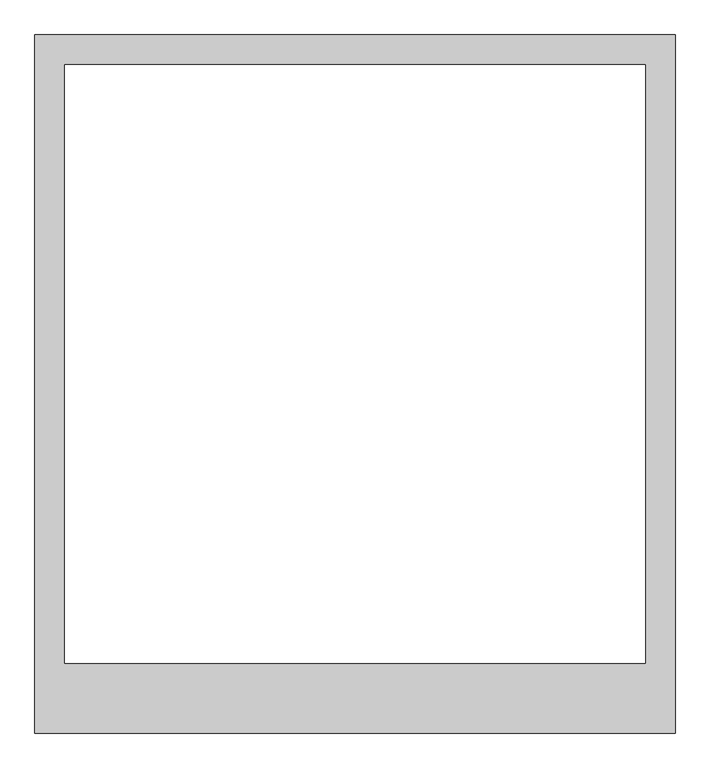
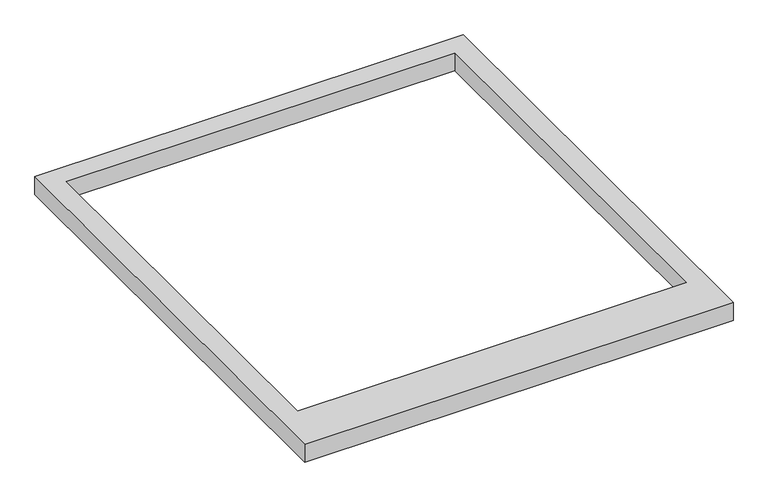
"""IFC4 building model written with IfcOpenShell, lengths in millimetres: beam geometry, Armazón estructural 1 : Armazón estructural 1."""

import ifcopenshell
import ifcopenshell.guid

model = None  # the IFC model being written
_history = None  # IfcOwnerHistory: only IFC2X3 demands one
_inside = {}  # id of a spatial element -> (the spatial element, [elements in it])
_under = {}  # id of a project, library or spatial element -> (it, [spatial elements below it])
_declared = {}  # id of a project -> (the project, [libraries it declares])
_typed = {}  # id of a type object -> (the type object, [elements of that type])
_made_of = {}  # id of a material, layer set ... -> (it, [elements and type objects made of it])


def new_model(schema):
    """Start an empty IFC model of exactly this schema.

    Asked for "IFC4X3", IfcOpenShell would pick the latest addendum, in which some entities
    have other attributes; the version numbers below select the first issue.
    IFC2X3 requires an IfcOwnerHistory on every rooted entity: one is made here for all.
    """
    global model, _history
    if schema == "IFC4X3":
        model = ifcopenshell.file(schema_version=(4, 3, 0, 0))
    else:
        model = ifcopenshell.file(schema=schema)
    _inside.clear()
    _under.clear()
    _declared.clear()
    _typed.clear()
    _made_of.clear()
    _history = None
    if model.schema == "IFC2X3":
        org = make("IfcOrganization", Name="unknown")
        user = make(
            "IfcPersonAndOrganization",
            ThePerson=make("IfcPerson", FamilyName="unknown"),
            TheOrganization=org,
        )
        app = make(
            "IfcApplication",
            ApplicationDeveloper=org,
            Version="unknown",
            ApplicationFullName="unknown",
            ApplicationIdentifier="unknown",
        )
        _history = make(
            "IfcOwnerHistory",
            OwningUser=user,
            OwningApplication=app,
            ChangeAction="ADDED",
            CreationDate=0,
        )
    return model


def make(cls, **values):
    """One entity of the class cls with the attributes given. An attribute that is None is left unset."""
    return model.create_entity(
        cls, **{name: value for name, value in values.items() if value is not None}
    )


def rooted(cls, **values):
    """An entity with a GlobalId (a new one), such as an element, a storey or a relation."""
    return make(cls, GlobalId=ifcopenshell.guid.new(), OwnerHistory=_history, **values)


def si_unit(unit_type, name, prefix=None):
    """IfcSIUnit, for example si_unit("LENGTHUNIT", "METRE", prefix="MILLI")."""
    return make("IfcSIUnit", UnitType=unit_type, Prefix=prefix, Name=name)


def assignment(units):
    """IfcUnitAssignment: the units of a project."""
    return None if units is None else make("IfcUnitAssignment", Units=units)


def point(xyz):
    """IfcCartesianPoint."""
    return None if xyz is None else make("IfcCartesianPoint", Coordinates=xyz)


def direction(xyz):
    """IfcDirection."""
    return None if xyz is None else make("IfcDirection", DirectionRatios=xyz)


def frame(location, z_axis=None, x_axis=None):
    """IfcAxis2Placement3D, a coordinate frame: its origin and axes. An axis left out is left unset."""
    return make(
        "IfcAxis2Placement3D",
        Location=point(location),
        Axis=direction(z_axis),
        RefDirection=direction(x_axis),
    )


def origin():
    """The frame at (0, 0, 0) with its axes left unset."""
    return frame((0.0, 0.0, 0.0))


def place(relative_to, where):
    """IfcLocalPlacement: puts the frame where relative to a parent placement (None: the world)."""
    return make(
        "IfcLocalPlacement", PlacementRelTo=relative_to, RelativePlacement=where
    )


def context(
    kind, dimensions, precision=None, world=None, true_north=None, identifier=None
):
    """IfcGeometricRepresentationContext, for example the 3D "Model" context."""
    return make(
        "IfcGeometricRepresentationContext",
        ContextIdentifier=identifier,
        ContextType=kind,
        CoordinateSpaceDimension=dimensions,
        Precision=precision,
        WorldCoordinateSystem=world,
        TrueNorth=true_north,
    )


def project(units=None, contexts=None):
    """IfcProject with its units and contexts."""
    return rooted(
        "IfcProject",
        Name="project",
        RepresentationContexts=contexts,
        UnitsInContext=assignment(units),
    )


def spatial(cls, under=None, at=None, **own):
    """A site, building, storey or space (cls), placed at a placement, below another one or the project."""
    s = rooted(cls, ObjectPlacement=at, **own)
    if under is not None:
        _under.setdefault(under.id(), (under, []))[1].append(s)
    return s


def polyline(points):
    """IfcPolyline through the points."""
    return make("IfcPolyline", Points=[point(p) for p in points])


def outline(outer, holes=None, kind="AREA"):
    """IfcArbitraryClosedProfileDef: a profile drawn as a closed curve; with holes, ...WithVoids."""
    if holes is None:
        return make("IfcArbitraryClosedProfileDef", ProfileType=kind, OuterCurve=outer)
    return make(
        "IfcArbitraryProfileDefWithVoids",
        ProfileType=kind,
        OuterCurve=outer,
        InnerCurves=holes,
    )


def extrude(swept, where, along, depth):
    """IfcExtrudedAreaSolid: the profile swept, set in the frame where, extruded along a direction by depth."""
    return make(
        "IfcExtrudedAreaSolid",
        SweptArea=swept,
        Position=where,
        ExtrudedDirection=direction(along),
        Depth=depth,
    )


def shape(context_of_items, identifier, shape_type, items):
    """IfcShapeRepresentation: the items that make up one representation, for example the "Body"."""
    return make(
        "IfcShapeRepresentation",
        ContextOfItems=context_of_items,
        RepresentationIdentifier=identifier,
        RepresentationType=shape_type,
        Items=items,
    )


def source(mapping_origin, context_of_items, identifier, shape_type, items):
    """IfcRepresentationMap: a shape defined once, which mapped items show again and again."""
    return make(
        "IfcRepresentationMap",
        MappingOrigin=mapping_origin,
        MappedRepresentation=shape(context_of_items, identifier, shape_type, items),
    )


def transform(
    local_origin,
    x_axis=None,
    y_axis=None,
    z_axis=None,
    scale=None,
    scale2=None,
    scale3=None,
    uniform=True,
):
    """IfcCartesianTransformationOperator3D, or its non-uniform kind. x_axis, y_axis, z_axis: its Axis1, 2, 3."""
    if uniform:
        return make(
            "IfcCartesianTransformationOperator3D",
            Axis1=direction(x_axis),
            Axis2=direction(y_axis),
            LocalOrigin=point(local_origin),
            Scale=scale,
            Axis3=direction(z_axis),
        )
    return make(
        "IfcCartesianTransformationOperator3DnonUniform",
        Axis1=direction(x_axis),
        Axis2=direction(y_axis),
        LocalOrigin=point(local_origin),
        Scale=scale,
        Axis3=direction(z_axis),
        Scale2=scale2,
        Scale3=scale3,
    )


def mapped(mapping_source, mapping_target):
    """IfcMappedItem: shows the shape of a source again, moved by a transform."""
    return make(
        "IfcMappedItem", MappingSource=mapping_source, MappingTarget=mapping_target
    )


def made_of(thing, what):
    """Note that an element or type object is made of a material, layer set ...; save() writes the relation."""
    if what is not None:
        _made_of.setdefault(what.id(), (what, []))[1].append(thing)
    return thing


def element(
    cls,
    number,
    at=None,
    inside=None,
    cuts=None,
    type_object=None,
    material=None,
    context=None,
    identifier="Body",
    shape_type=None,
    held_by="IfcProductDefinitionShape",
    body=None,
    shapes=None,
    **own,
):
    """One element of the class cls, such as IfcWall. Its Tag is "e" and its number.

    at: its placement. inside: the storey or other place that contains it. cuts: it is an
    opening in that element (IfcRelVoidsElement). A single representation is given by context,
    identifier, shape_type and body (its items); several are given by shapes. held_by: the class
    of the entity that holds the representations. save() writes the other relations.
    """
    e = rooted(cls, Tag="e%d" % number, ObjectPlacement=at, **own)
    if body is not None:
        shapes = [shape(context, identifier, shape_type, body)]
    if shapes is not None:
        e.Representation = make(held_by, Representations=shapes)
    if inside is not None:
        _inside.setdefault(inside.id(), (inside, []))[1].append(e)
    if cuts is not None:
        rooted(
            "IfcRelVoidsElement", RelatingBuildingElement=cuts, RelatedOpeningElement=e
        )
    if type_object is not None:
        _typed.setdefault(type_object.id(), (type_object, []))[1].append(e)
    return made_of(e, material)


def aggregate(whole, parts):
    """IfcRelAggregates: a whole, such as a stair, and the parts it consists of."""
    return rooted("IfcRelAggregates", RelatingObject=whole, RelatedObjects=parts)


def save(model, path):
    """Write the relations noted so far, then the file.

    IfcRelAggregates (storeys below a building ...), IfcRelContainedInSpatialStructure (elements
    in a storey), IfcRelDefinesByType, IfcRelAssociatesMaterial and IfcRelDeclares: one each for
    every whole, place, type object, material and project.
    """
    for whole, parts in _under.values():
        aggregate(whole, parts)
    for where, things in _inside.values():
        rooted(
            "IfcRelContainedInSpatialStructure",
            RelatedElements=things,
            RelatingStructure=where,
        )
    for kind, things in _typed.values():
        rooted("IfcRelDefinesByType", RelatedObjects=things, RelatingType=kind)
    for what, things in _made_of.values():
        rooted("IfcRelAssociatesMaterial", RelatedObjects=things, RelatingMaterial=what)
    for by, libraries in _declared.values():
        rooted("IfcRelDeclares", RelatingContext=by, RelatedDefinitions=libraries)
    model.write(path)


def beam_4e2509dd(model_context):
    return source(origin(), model_context, "Body", "SweptSolid", [
        extrude(outline(polyline([(-1842.571429, 0.0), (-1842.571429, -1284.7857545), (-3242.839286, -1284.7857545), (-3242.839286, 0.0), (-1842.571429, 0.0)]), holes=[polyline([(-3182.839286, -60.0), (-3182.839286, -1224.7857545), (-1982.8571429, -1224.7857545), (-1982.8571429, -60.0), (-3182.839286, -60.0)])]), frame((7596.7483807, 3001.7857983, 1603.7872995), z_axis=(2.4249234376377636e-07, 0.0, 0.9999999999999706), x_axis=(0.0, -1.0, 0.0)), (0.0, 0.0, 1.0), 56.4876932),
    ])


if __name__ == "__main__":
    model = new_model("IFC4")
    model_context = context("Model", 3, world=origin())
    ifc_project = project(units=[si_unit("LENGTHUNIT", "METRE", prefix="MILLI")], contexts=[model_context])
    site = spatial("IfcSite", under=ifc_project)
    building = spatial("IfcBuilding", under=site)
    placement = place(None, origin())
    beam_shape = beam_4e2509dd(model_context)
    element("IfcBeam", 1, ObjectType="Armazón estructural 1 : Armazón estructural 1", at=placement, inside=building, context=model_context, shape_type="MappedRepresentation", body=[
        mapped(beam_shape, transform((0.0, 0.0, 0.0), x_axis=(1.0, 0.0, 0.0), y_axis=(0.0, 1.0, 0.0), z_axis=(0.0, 0.0, 1.0))),
    ])
    save(model, "model.ifc")
